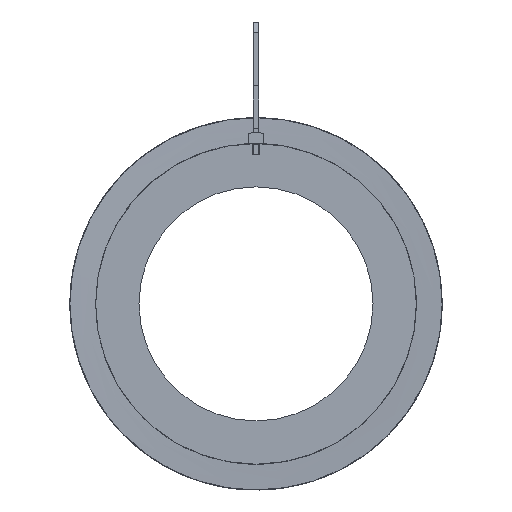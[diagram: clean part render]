
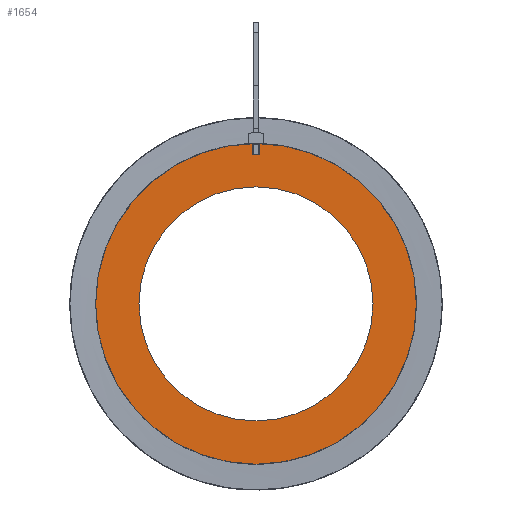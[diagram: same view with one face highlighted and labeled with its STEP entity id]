
A CAD part, front view. The second image highlights one B-rep face of the part: STEP entity #1654.
In plain terms, the highlighted planar face has unit normal (0, -1, 0).
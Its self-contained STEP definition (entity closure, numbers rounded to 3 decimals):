
#29=FACE_BOUND($,#309,.T.);
#30=FACE_BOUND($,#310,.T.);
#38=CIRCLE($,#1668,30.);
#62=CIRCLE($,#1707,30.15);
#68=CIRCLE($,#1768,22.);
#144=PLANE($,#1767);
#217=FACE_OUTER_BOUND($,#308,.T.);
#308=EDGE_LOOP($,(#1484));
#309=EDGE_LOOP($,(#1485,#1486,#1487,#1488));
#310=EDGE_LOOP($,(#1489));
#483=LINE($,#13728,#658);
#486=LINE($,#13734,#661);
#490=LINE($,#13740,#665);
#658=VECTOR($,#2151,1.991);
#661=VECTOR($,#2156,1.5);
#665=VECTOR($,#2162,1.991);
#704=VERTEX_POINT($,#13359);
#705=VERTEX_POINT($,#13361);
#751=VERTEX_POINT($,#13484);
#821=VERTEX_POINT($,#13727);
#823=VERTEX_POINT($,#13733);
#825=VERTEX_POINT($,#13742);
#857=EDGE_CURVE($,#705,#704,#38,.T.);
#919=EDGE_CURVE($,#751,#751,#62,.T.);
#1040=EDGE_CURVE($,#821,#705,#483,.T.);
#1043=EDGE_CURVE($,#823,#821,#486,.T.);
#1047=EDGE_CURVE($,#704,#823,#490,.T.);
#1048=EDGE_CURVE($,#825,#825,#68,.T.);
#1484=ORIENTED_EDGE($,*,*,#919,.T.);
#1485=ORIENTED_EDGE($,*,*,#1047,.T.);
#1486=ORIENTED_EDGE($,*,*,#1043,.T.);
#1487=ORIENTED_EDGE($,*,*,#1040,.T.);
#1488=ORIENTED_EDGE($,*,*,#857,.T.);
#1489=ORIENTED_EDGE($,*,*,#1048,.T.);
#1654=ADVANCED_FACE($,(#217,#29,#30),#144,.F.);
#1668=AXIS2_PLACEMENT_3D($,#13362,#1804,#1805);
#1707=AXIS2_PLACEMENT_3D($,#13485,#1920,#1921);
#1767=AXIS2_PLACEMENT_3D($,#13741,#2163,#2164);
#1768=AXIS2_PLACEMENT_3D($,#13743,#2165,#2166);
#1804=DIRECTION('center_axis',(0.,1.,0.));
#1805=DIRECTION('ref_axis',(1.,0.,0.));
#1920=DIRECTION('center_axis',(0.,-1.,0.));
#1921=DIRECTION('ref_axis',(1.,0.,0.));
#2151=DIRECTION($,(0.,0.,1.));
#2156=DIRECTION($,(-1.,0.,0.));
#2162=DIRECTION($,(0.,0.,-1.));
#2163=DIRECTION('center_axis',(0.,1.,0.));
#2164=DIRECTION('ref_axis',(0.,0.,1.));
#2165=DIRECTION('center_axis',(0.,1.,0.));
#2166=DIRECTION('ref_axis',(1.,0.,0.));
#13359=CARTESIAN_POINT('',(0.75,-200.,29.991));
#13361=CARTESIAN_POINT('',(-0.75,-200.,29.991));
#13362=CARTESIAN_POINT('Origin',(0.,-200.,0.));
#13484=CARTESIAN_POINT('',(-30.15,-200.,0.));
#13485=CARTESIAN_POINT('Origin',(0.,-200.,0.));
#13727=CARTESIAN_POINT('',(-0.75,-200.,28.));
#13728=CARTESIAN_POINT($,(-0.75,-200.,15.35));
#13733=CARTESIAN_POINT('',(0.75,-200.,28.));
#13734=CARTESIAN_POINT($,(-0.375,-200.,28.));
#13740=CARTESIAN_POINT($,(0.75,-200.,14.));
#13741=CARTESIAN_POINT('Origin',(0.,-200.,0.));
#13742=CARTESIAN_POINT('',(-22.,-200.,0.));
#13743=CARTESIAN_POINT('Origin',(0.,-200.,0.));
